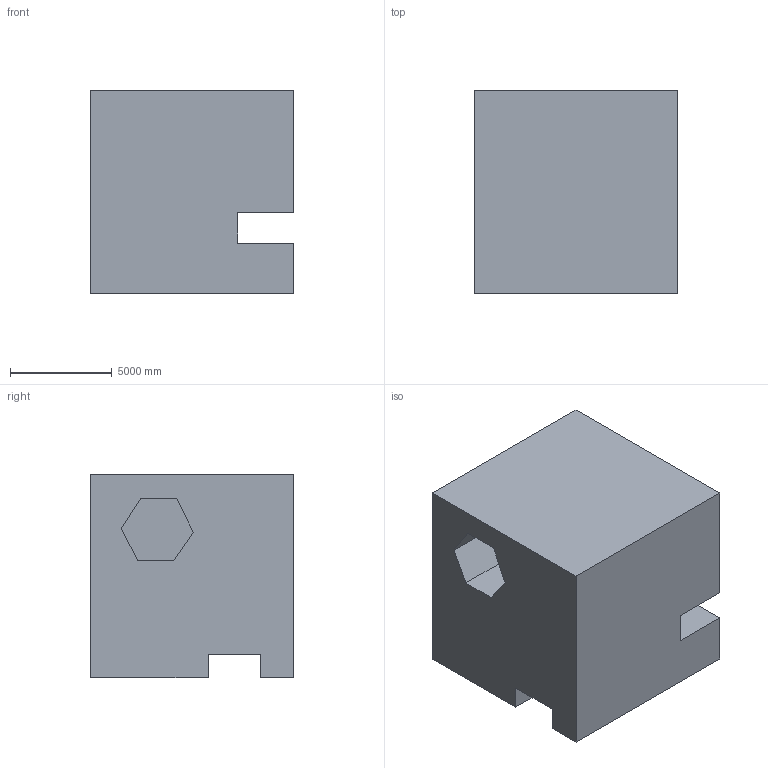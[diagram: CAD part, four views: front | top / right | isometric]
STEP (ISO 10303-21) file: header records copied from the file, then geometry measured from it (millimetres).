
FILE_DESCRIPTION (( 'STEP AP203' ), '1' );
FILE_NAME ('365.STEP', '2022-07-28T14:30:09', ( 'user' ), ( '' ), 'SwSTEP 2.0', 'SolidWorks 2021', '' );
FILE_SCHEMA (( 'CONFIG_CONTROL_DESIGN' ));
Length unit declared in the file: centimetre
Products named in the file (1): 365
Bounding box: 10000 x 10000 x 10000 mm (x, y, z)
Volume: 889602106431.9 mm3; surface area: 734716185.6 mm2
Topology: 1 solids, 1 shells, 25 faces, 63 edges, 42 vertices
Faces by surface type: plane 25
Entity records: 814 total; most frequent: CARTESIAN_POINT 131, ORIENTED_EDGE 126, DIRECTION 115, EDGE_CURVE 63, LINE 63, VECTOR 63, VERTEX_POINT 42, EDGE_LOOP 27
